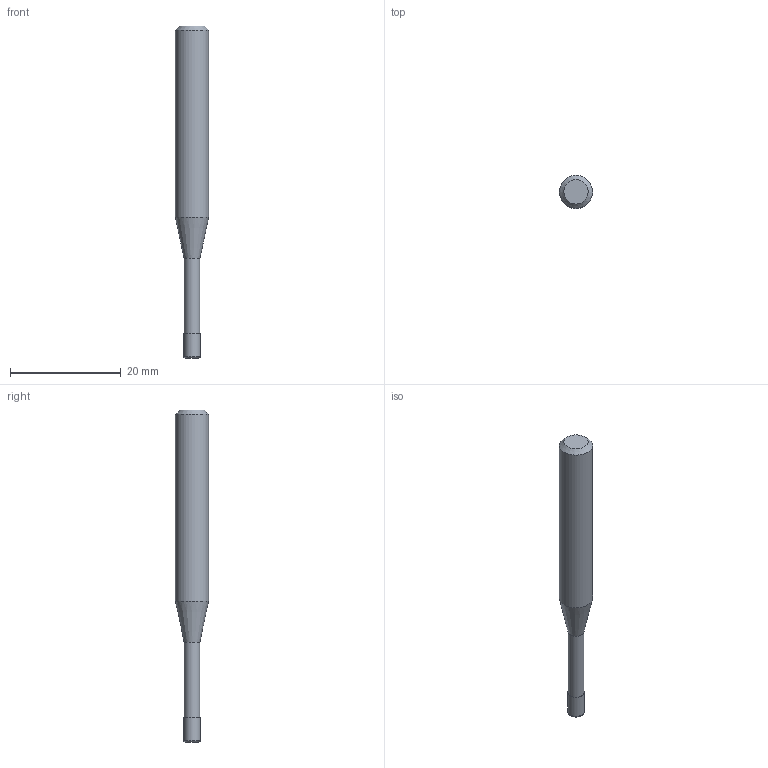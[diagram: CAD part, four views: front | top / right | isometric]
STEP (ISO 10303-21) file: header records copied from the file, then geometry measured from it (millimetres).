
FILE_DESCRIPTION((''),'2;1');
FILE_NAME('C:\Users\nsx150\AppData\Local\Temp\Mastercam 2021\17T8Q8S9EB\TEMP.step','2021-04-21T14:39:18',(''),(''),'STEP Write','Mastercam 2021 ... CNC Software, Inc.','');
FILE_SCHEMA(('AUTOMOTIVE_DESIGN'));
Length unit declared in the file: millimetre
Products named in the file (1): None
Bounding box: 6 x 6 x 60 mm (x, y, z)
Volume: 1209 mm3; surface area: 958.5 mm2
Topology: 2 solids, 2 shells, 10 faces, 14 edges, 8 vertices
Faces by surface type: plane 4, cylinder 3, cone 2, torus 1
Full cylindrical faces by diameter (mm): 2.85 x1, 3 x1, 6 x1
Entity records: 232 total; most frequent: DIRECTION 40, CARTESIAN_POINT 28, AXIS2_PLACEMENT_3D 20, ORIENTED_EDGE 16, EDGE_LOOP 16, STYLED_ITEM 13, ADVANCED_FACE 10, FACE_BOUND 10
